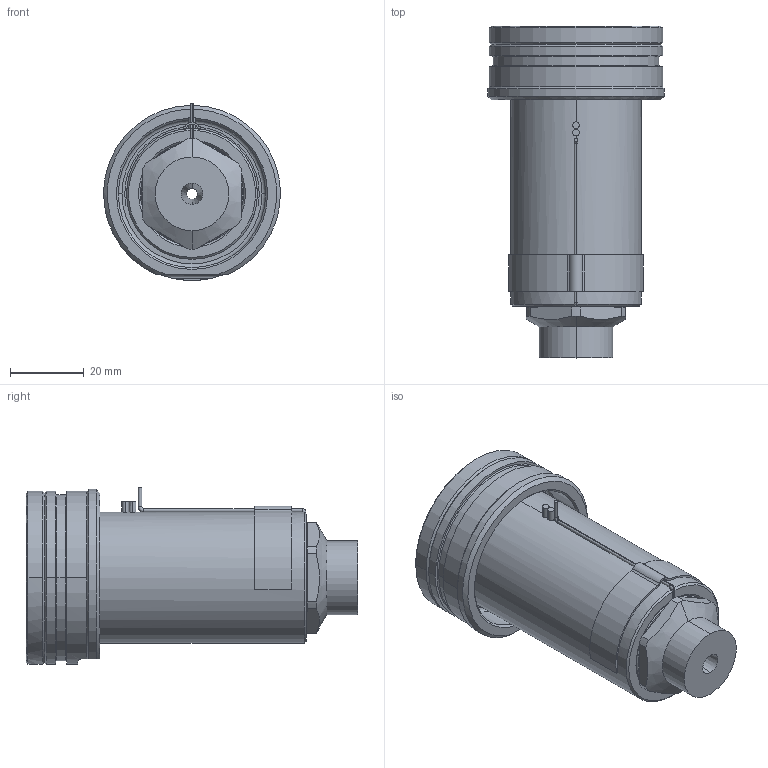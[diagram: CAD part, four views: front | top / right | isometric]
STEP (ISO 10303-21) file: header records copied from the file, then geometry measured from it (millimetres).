
FILE_DESCRIPTION((''),'2;1');
FILE_NAME('EO16_SG_SG_070_SW','2024-02-19T12:32:11',('sundharh'),(''),'CREO PARAMETRIC BY PTC INC, 2023154','CREO PARAMETRIC BY PTC INC, 2023154','');
FILE_SCHEMA(('CONFIG_CONTROL_DESIGN'));
Length unit declared in the file: millimetre
Products named in the file (1): EO16_SG_SG_070_SW
Bounding box: 47.97 x 90 x 48 mm (x, y, z)
Volume: 77591.2 mm3; surface area: 21660.2 mm2
Topology: 1 solids, 1 shells, 164 faces, 410 edges, 252 vertices
Faces by surface type: cylinder 64, plane 45, cone 31, torus 14, bspline 7, sphere 3
Entity records: 5583 total; most frequent: CARTESIAN_POINT 1592, DIRECTION 884, ORIENTED_EDGE 804, EDGE_CURVE 402, AXIS2_PLACEMENT_3D 365, VERTEX_POINT 252, CIRCLE 208, EDGE_LOOP 180
